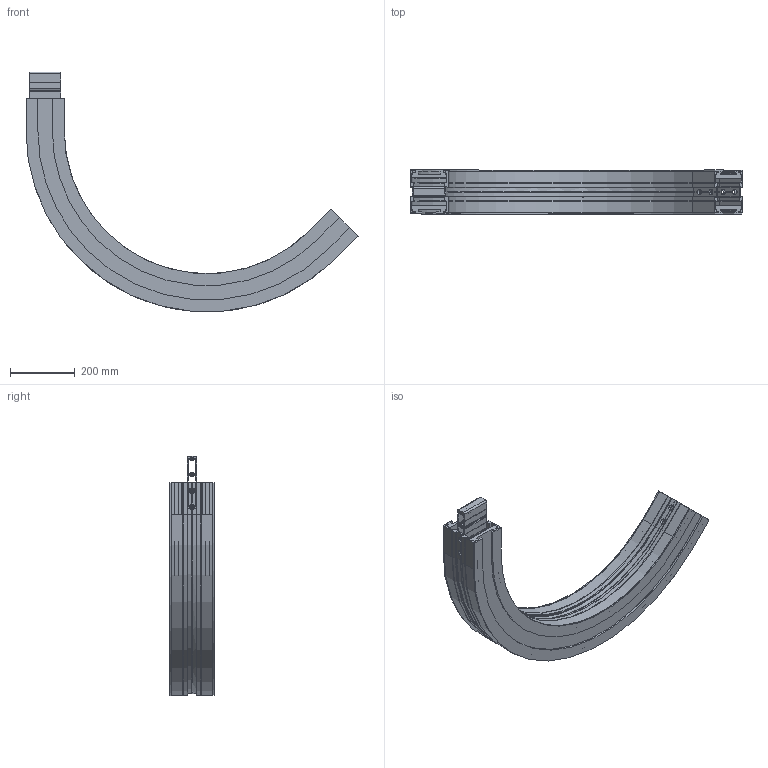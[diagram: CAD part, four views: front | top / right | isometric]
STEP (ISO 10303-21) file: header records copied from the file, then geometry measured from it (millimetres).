
FILE_DESCRIPTION (( 'STEP AP203' ), '1' );
FILE_NAME ('R3C500-135.STEP', '2009-01-13T08:22:45', ( 'faber' ), ( '' ), 'SwSTEP 2.0', 'SolidWorks 2008', '' );
FILE_SCHEMA (( 'CONFIG_CONTROL_DESIGN' ));
Length unit declared in the file: millimetre
Products named in the file (1): R3C500-135
Bounding box: 1024.98 x 136 x 740.75 mm (x, y, z)
Surface area: 1566051.5 mm2 (no closed solid volume)
Topology: 0 solids, 9 shells, 355 faces, 1493 edges, 1068 vertices
Faces by surface type: cylinder 166, plane 143, cone 28, torus 18
Entity records: 15372 total; most frequent: CARTESIAN_POINT 3013, DIRECTION 2693, ORIENTED_EDGE 2250, EDGE_CURVE 1493, VERTEX_POINT 1068, VECTOR 941, LINE 941, AXIS2_PLACEMENT_3D 876
